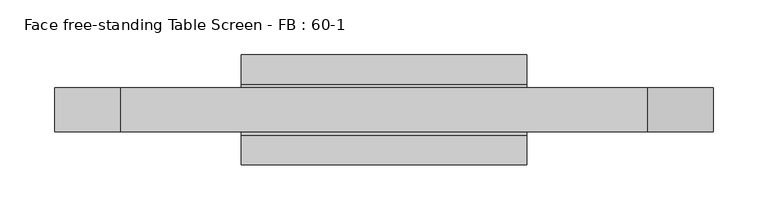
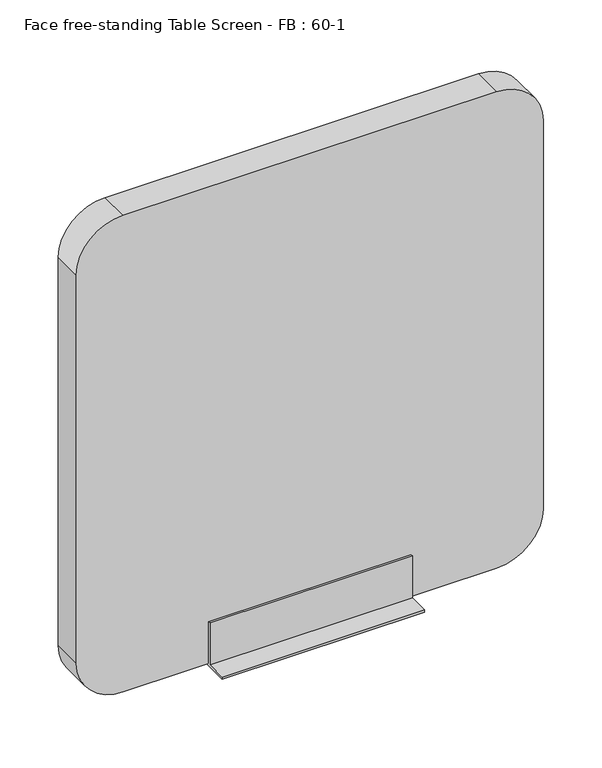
"""IFC4 building model written with IfcOpenShell, lengths in millimetres: furniture geometry, Face free-standing Table Screen - FB : 60-1."""

from ifc_helpers import new_model, si_unit, point, frame, frame_2d, origin, place, context, project, spatial, polyline, circle_curve, trimmed, segment, composite_curve, outline, extrude, source, transform, mapped, element, save


def face_free_standing_table_screen_fb_60_1_81a4c0ed(model_context):
    return source(origin(), model_context, "Body", "SweptSolid", [
        extrude(outline(polyline([(-50.0, 3.0), (-22.999995, 3.0), (-23.0, 60.0), (-20.0, 60.0), (-20.0, 3.0), (20.0, 3.0), (20.0, 60.0), (23.0, 60.0), (22.999995, 3.0), (50.0, 3.0), (50.0, 0.0), (-50.0, 0.0), (-50.0, 3.0)])), frame((-130.0, 0.0, 0.0), z_axis=(1.0, 0.0, 0.0), x_axis=(0.0, 1.0, 0.0)), (0.0, 0.0, 1.0), 260.0),
        extrude(outline(composite_curve([segment(polyline([(650.0, 240.0), (650.0, -240.0)]), True, "CONTINUOUS"), segment(trimmed(circle_curve(frame_2d((590.0, -240.0)), 60.0), [point((650.0, -240.0))], [point((590.0, -300.0))], False, "CARTESIAN"), True, "CONTINUOUS"), segment(polyline([(590.0, -300.0), (63.0, -300.0)]), True, "CONTINUOUS"), segment(trimmed(circle_curve(frame_2d((63.0, -240.0)), 60.0), [point((63.0, -300.0))], [point((3.0, -240.0))], False, "CARTESIAN"), True, "CONTINUOUS"), segment(polyline([(3.0, -240.0), (3.0, 240.0)]), True, "CONTINUOUS"), segment(trimmed(circle_curve(frame_2d((63.0, 240.0)), 60.0), [point((3.0, 240.0))], [point((63.0, 300.0))], False, "CARTESIAN"), True, "CONTINUOUS"), segment(polyline([(63.0, 300.0), (590.0, 300.0)]), True, "CONTINUOUS"), segment(trimmed(circle_curve(frame_2d((590.0, 240.0)), 60.0), [point((590.0, 300.0))], [point((650.0, 240.0))], False, "CARTESIAN"), True, "CONTINUOUS")], self_intersect=False)), frame((0.0, -20.0, 0.0), z_axis=(0.0, 1.0, 0.0), x_axis=(0.0, 0.0, 1.0)), (0.0, 0.0, 1.0), 40.0),
    ])


if __name__ == "__main__":
    model = new_model("IFC4")
    model_context = context("Model", 3, world=origin())
    ifc_project = project(units=[si_unit("LENGTHUNIT", "METRE", prefix="MILLI")], contexts=[model_context])
    site = spatial("IfcSite", under=ifc_project)
    building = spatial("IfcBuilding", under=site)
    placement = place(None, origin())
    face_free_standing_table_screen_fb_60_1_shape = face_free_standing_table_screen_fb_60_1_81a4c0ed(model_context)
    element("IfcFurniture", 1, ObjectType="Face free-standing Table Screen - FB : 60-1", at=placement, inside=building, context=model_context, shape_type="MappedRepresentation", body=[
        mapped(face_free_standing_table_screen_fb_60_1_shape, transform((0.0, 0.0, 0.0), x_axis=(1.0, 0.0, 0.0), y_axis=(0.0, 1.0, 0.0), z_axis=(0.0, 0.0, 1.0))),
    ])
    save(model, "model.ifc")
